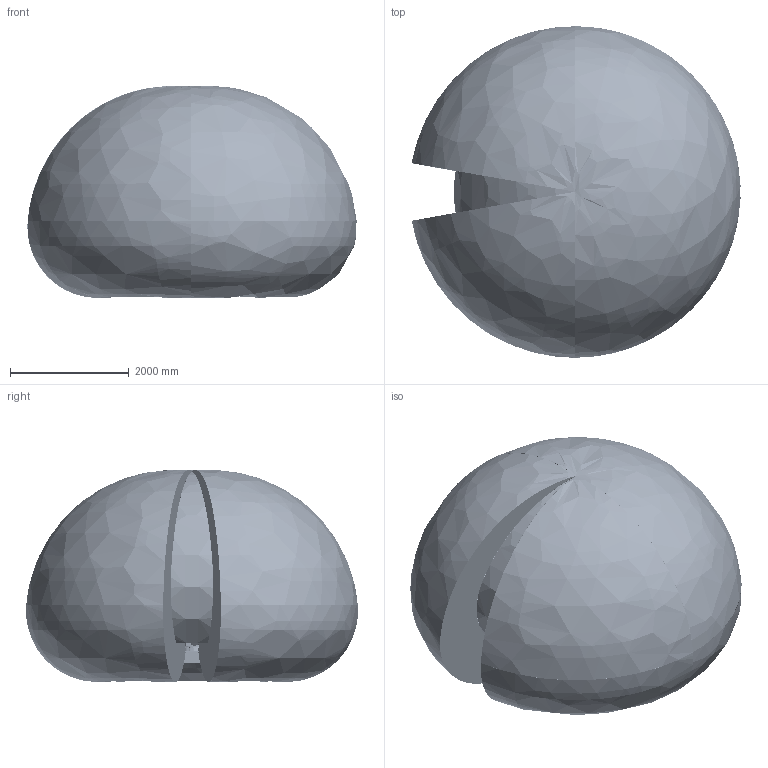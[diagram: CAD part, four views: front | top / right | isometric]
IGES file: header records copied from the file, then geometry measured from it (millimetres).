
Start section: SolidWorks IGES file using analytic representation for surfaces
Global section: file name: C:\DATA\SAP_DOC\LW\IRB 6720\IRB6720-MH3_210kg-280_OC_01_SW_J\export\IRB6720-MH3_210kg-280_OC_01_IGES_J\IRB6720-MH3_210kg-280_OC_01_ASM_CAD.igs; native system: SolidWorks 2024; preprocessor: SolidWorks 2024; author: SEJOVAS3; date: 260526.103327; units: millimetre
Bounding box: 5551.59 x 5600.42 x 3572.45 mm (x, y, z)
Surface area: 111948952.9 mm2 (no closed solid volume)
Topology: 0 solids, 0 shells, 8812 faces, 137866 edges, 137695 vertices
Faces by surface type: bspline 5113, revolution 3699
